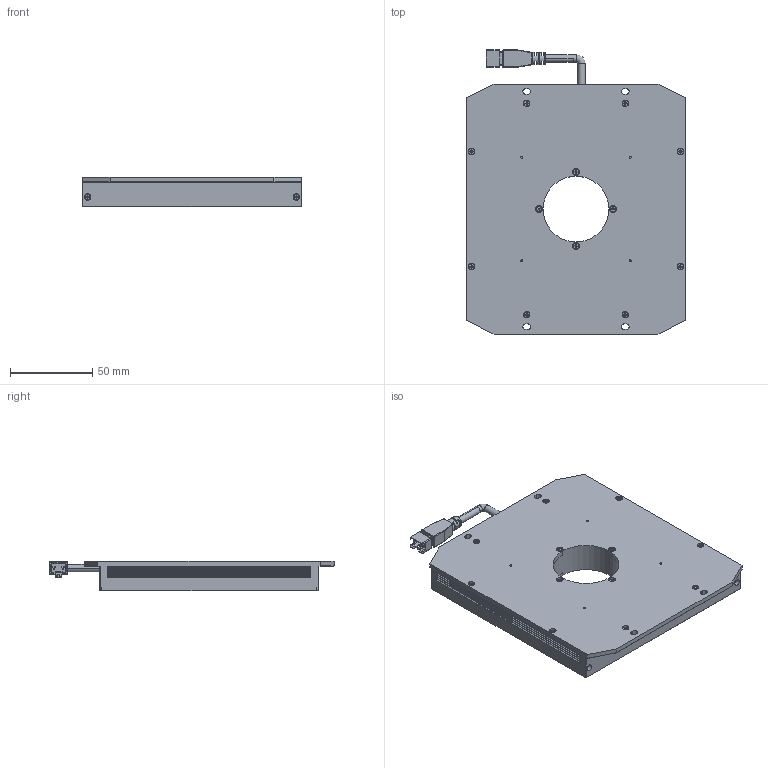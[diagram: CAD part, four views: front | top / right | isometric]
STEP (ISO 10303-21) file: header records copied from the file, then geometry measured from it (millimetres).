
FILE_DESCRIPTION((''),'2;1');
FILE_NAME('LS-LBES-H-120-120-X2','2022-11-04T11:46:32',('LumaSpec Vision'),('LumaSpec Vision'),'CREO PARAMETRIC BY PTC INC, 2020044','CREO PARAMETRIC BY PTC INC, 2020044','');
FILE_SCHEMA(('AUTOMOTIVE_DESIGN { 1 0 10303 214 1 1 1 1 }'));
Length unit declared in the file: millimetre
Products named in the file (1): PRT0002
Bounding box: 133 x 172.75 x 18 mm (x, y, z)
Volume: 303523 mm3; surface area: 55436 mm2
Topology: 1 solids, 48 shells, 1639 faces, 3843 edges, 2315 vertices
Faces by surface type: plane 985, cylinder 430, cone 142, torus 66, sphere 8, bspline 8
Entity records: 47423 total; most frequent: CARTESIAN_POINT 9058, DIRECTION 7872, ORIENTED_EDGE 7638, EDGE_CURVE 3819, AXIS2_PLACEMENT_3D 2684, VECTOR 2504, LINE 2504, VERTEX_POINT 2315
